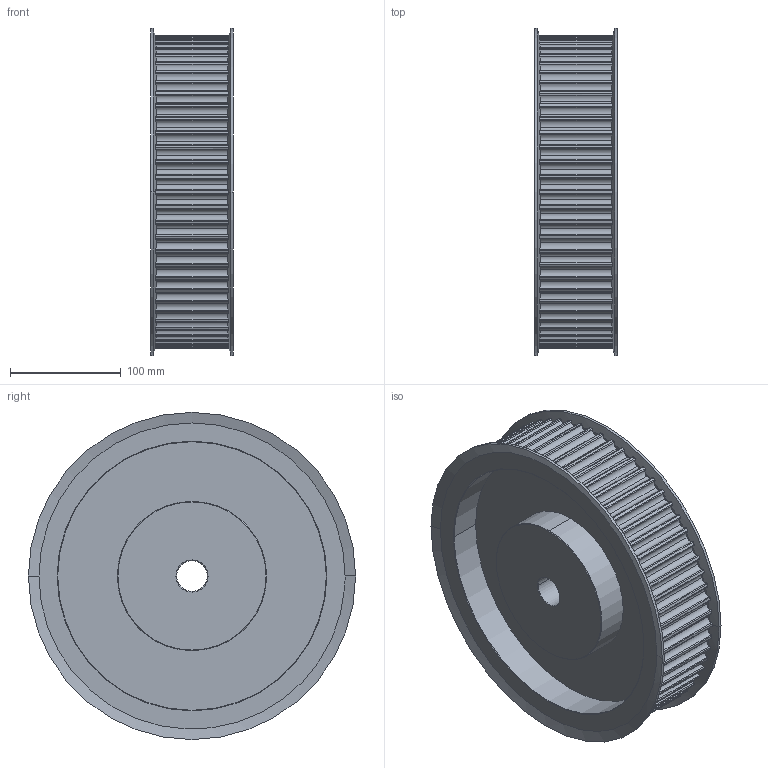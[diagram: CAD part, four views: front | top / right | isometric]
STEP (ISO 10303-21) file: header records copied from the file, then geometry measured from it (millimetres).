
FILE_DESCRIPTION(('STEP AP203'),'1');
FILE_NAME('64_-_14_m_55.stp','2021-09-21T07:38:02',('TraceParts'),('TraceParts S.A.'),'Spatial InterOp 3D',' ',' ');
FILE_SCHEMA(('CONFIG_CONTROL_DESIGN'));
Length unit declared in the file: millimetre
Products named in the file (1): 1
Bounding box: 75.09 x 296 x 296 mm (x, y, z)
Volume: 2423464.1 mm3; surface area: 308256.7 mm2
Topology: 1 solids, 1 shells, 488 faces, 1434 edges, 952 vertices
Faces by surface type: cylinder 334, plane 134, cone 20
Entity records: 20062 total; most frequent: CARTESIAN_POINT 7483, ORIENTED_EDGE 2868, DIRECTION 2468, EDGE_CURVE 1434, AXIS2_PLACEMENT_3D 1057, VERTEX_POINT 952, CIRCLE 568, B_SPLINE_CURVE_WITH_KNOTS 512
